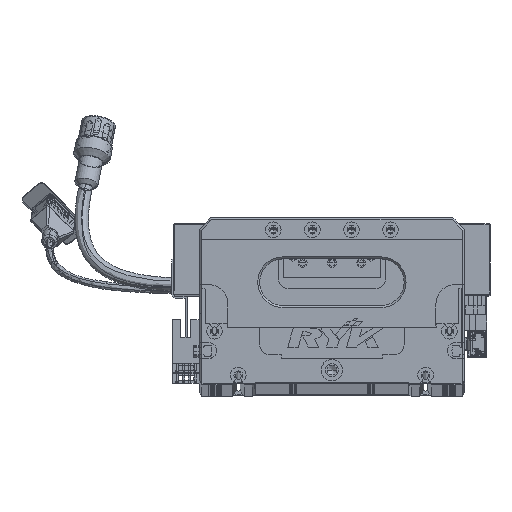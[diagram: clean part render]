
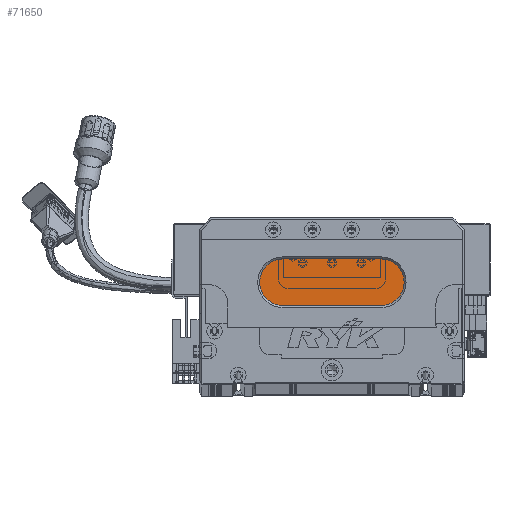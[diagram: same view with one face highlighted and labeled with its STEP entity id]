
A CAD part, top view. The second image highlights one B-rep face of the part: STEP entity #71650.
In plain terms, the highlighted planar face has unit normal (0, 0, 1) as drawn and (0, 0, -1) by its records, which use the part's own axes.
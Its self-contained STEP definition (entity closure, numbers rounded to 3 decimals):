
#311 = VERTEX_POINT ( 'NONE', #54324 ) ;
#874 = CARTESIAN_POINT ( 'NONE',  ( 43., 64., 13. ) ) ;
#9130 = DIRECTION ( 'NONE',  ( -1., 0., 0. ) ) ;
#14096 = DIRECTION ( 'NONE',  ( 0., 0., -1. ) ) ;
#14819 = EDGE_CURVE ( 'NONE', #42815, #54359, #14920, .T. ) ;
#14920 = CIRCLE ( 'NONE', #41334, 12. ) ;
#15877 = CIRCLE ( 'NONE', #77378, 12. ) ;
#20278 = DIRECTION ( 'NONE',  ( 1., 0., 0. ) ) ;
#20640 = CARTESIAN_POINT ( 'NONE',  ( 43., 40., 13. ) ) ;
#22115 = EDGE_CURVE ( 'NONE', #37353, #42815, #97427, .T. ) ;
#25855 = VECTOR ( 'NONE', #20278, 1000. ) ;
#28291 = EDGE_CURVE ( 'NONE', #92655, #311, #150058, .T. ) ;
#28454 = CARTESIAN_POINT ( 'NONE',  ( 93., 40., 13. ) ) ;
#31032 = ORIENTED_EDGE ( 'NONE', *, *, #14819, .T. ) ;
#36277 = DIRECTION ( 'NONE',  ( -1., 0., 0. ) ) ;
#37353 = VERTEX_POINT ( 'NONE', #82767 ) ;
#41334 = AXIS2_PLACEMENT_3D ( 'NONE', #118918, #130642, #36277 ) ;
#42815 = VERTEX_POINT ( 'NONE', #20640 ) ;
#47511 = CARTESIAN_POINT ( 'NONE',  ( 31., 52., 13. ) ) ;
#54324 = CARTESIAN_POINT ( 'NONE',  ( 93., 64., 13. ) ) ;
#54359 = VERTEX_POINT ( 'NONE', #47511 ) ;
#59469 = ORIENTED_EDGE ( 'NONE', *, *, #28291, .T. ) ;
#62048 = CARTESIAN_POINT ( 'NONE',  ( 93., 52., 13. ) ) ;
#64623 = ORIENTED_EDGE ( 'NONE', *, *, #70794, .T. ) ;
#66408 = VECTOR ( 'NONE', #74873, 1000. ) ;
#66763 = DIRECTION ( 'NONE',  ( 0., 0., -1. ) ) ;
#67917 = DIRECTION ( 'NONE',  ( -1., 0., 0. ) ) ;
#70794 = EDGE_CURVE ( 'NONE', #311, #37353, #15877, .T. ) ;
#71650 = ADVANCED_FACE ( 'NONE', ( #106930 ), #113798, .T. ) ;
#74873 = DIRECTION ( 'NONE',  ( -1., 0., 0. ) ) ;
#77378 = AXIS2_PLACEMENT_3D ( 'NONE', #62048, #14096, #143167 ) ;
#79563 = CARTESIAN_POINT ( 'NONE',  ( 93., 52., 13. ) ) ;
#82767 = CARTESIAN_POINT ( 'NONE',  ( 93., 40., 13. ) ) ;
#90694 = CARTESIAN_POINT ( 'NONE',  ( 43., 52., 13. ) ) ;
#92655 = VERTEX_POINT ( 'NONE', #874 ) ;
#97427 = LINE ( 'NONE', #28454, #66408 ) ;
#106930 = FACE_OUTER_BOUND ( 'NONE', #109933, .T. ) ;
#109933 = EDGE_LOOP ( 'NONE', ( #64623, #149496, #31032, #112885, #59469 ) ) ;
#112885 = ORIENTED_EDGE ( 'NONE', *, *, #145682, .T. ) ;
#113297 = DIRECTION ( 'NONE',  ( 0., 0., -1. ) ) ;
#113798 = PLANE ( 'NONE',  #127219 ) ;
#118918 = CARTESIAN_POINT ( 'NONE',  ( 43., 52., 13. ) ) ;
#120078 = AXIS2_PLACEMENT_3D ( 'NONE', #90694, #66763, #9130 ) ;
#127219 = AXIS2_PLACEMENT_3D ( 'NONE', #79563, #113297, #67917 ) ;
#130642 = DIRECTION ( 'NONE',  ( 0., 0., -1. ) ) ;
#136554 = CARTESIAN_POINT ( 'NONE',  ( 93., 64., 13. ) ) ;
#143167 = DIRECTION ( 'NONE',  ( -1., 0., 0. ) ) ;
#145682 = EDGE_CURVE ( 'NONE', #54359, #92655, #150463, .T. ) ;
#149496 = ORIENTED_EDGE ( 'NONE', *, *, #22115, .T. ) ;
#150058 = LINE ( 'NONE', #136554, #25855 ) ;
#150463 = CIRCLE ( 'NONE', #120078, 12. ) ;
